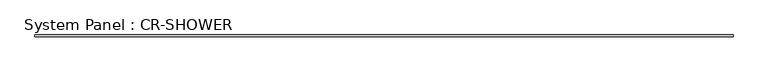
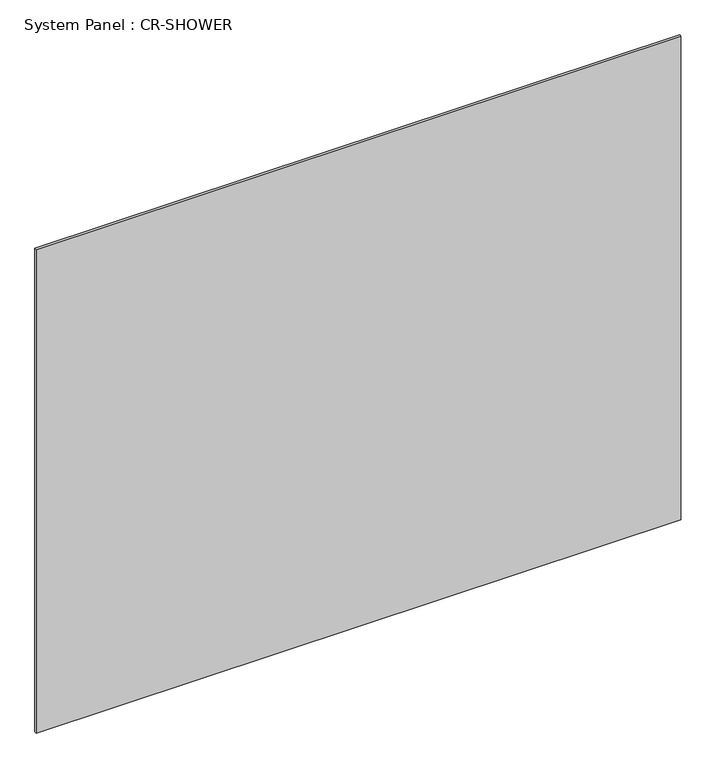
"""IFC4 building model written with IfcOpenShell, lengths in millimetres: plate geometry, System Panel : CR-SHOWER."""

from ifc_helpers import new_model, si_unit, origin, origin_with_axes, place, context, project, spatial, polyline, outline, extrude, source, transform, mapped, element, save


def system_panel_cr_shower_ecd2c0de(model_context):
    return source(origin(), model_context, "Body", "SweptSolid", [
        extrude(outline(polyline([(2112.25, -0.05), (-2112.25, -0.05), (-2112.25, 12.45), (2112.25, 12.45), (2112.25, -0.05)])), origin_with_axes(), (0.0, 0.0, 1.0), 3350.0),
    ])


if __name__ == "__main__":
    model = new_model("IFC4")
    model_context = context("Model", 3, world=origin())
    ifc_project = project(units=[si_unit("LENGTHUNIT", "METRE", prefix="MILLI")], contexts=[model_context])
    site = spatial("IfcSite", under=ifc_project)
    building = spatial("IfcBuilding", under=site)
    placement = place(None, origin())
    system_panel_cr_shower_shape = system_panel_cr_shower_ecd2c0de(model_context)
    element("IfcPlate", 1, ObjectType="System Panel : CR-SHOWER", at=placement, inside=building, context=model_context, shape_type="MappedRepresentation", body=[
        mapped(system_panel_cr_shower_shape, transform((0.0, 0.0, 0.0), x_axis=(1.0, 0.0, 0.0), y_axis=(0.0, 1.0, 0.0), z_axis=(0.0, 0.0, 1.0))),
    ])
    save(model, "model.ifc")
